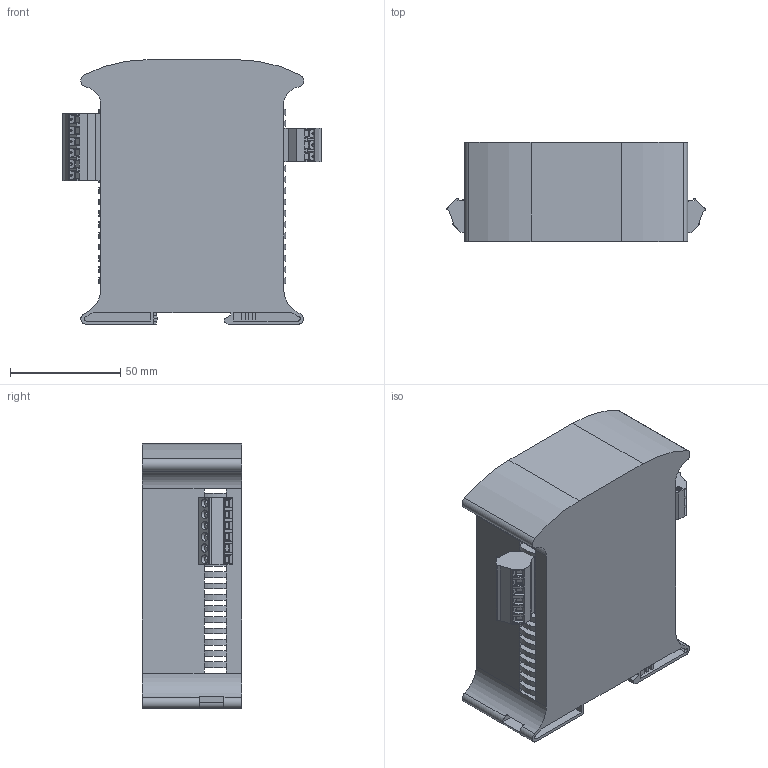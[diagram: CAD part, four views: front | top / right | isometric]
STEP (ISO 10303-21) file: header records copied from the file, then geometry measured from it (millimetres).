
FILE_DESCRIPTION(/* description */ (''),/* implementation_level */ '2;1');
FILE_NAME(/* name */ 'CAL23DT-HV_.step',/* time_stamp */ '2024-05-28T10:18:05+02:00',/* author */ (''),/* organization */ (''),/* preprocessor_version */ 'ST-DEVELOPER v20',/* originating_system */ 'Autodesk Translation Framework v13.14.0.145',/* authorisation */ '');
FILE_SCHEMA (('AUTOMOTIVE_DESIGN { 1 0 10303 214 3 1 1 }'));
Length unit declared in the file: millimetre
Products named in the file (6): CAL23DT-HV; CAL23D Seguro v5; 1826322 v1 (1); 1826322; 1826296; 1826296_1
Assembly tree (5 placements, depth 3):
  CAL23DT-HV
    CAL23D Seguro v5
    1826322 v1 (1)
      1826322
    1826296
      1826296_1
Bounding box: 117.21 x 45 x 120 mm (x, y, z)
Volume: 419611.9 mm3; surface area: 86594.3 mm2
Topology: 4 solids, 4 shells, 799 faces, 2145 edges, 1379 vertices
Faces by surface type: plane 581, cylinder 214, sphere 4
Full cylindrical faces by diameter (mm): 0.457 x2, 1.4 x9, 2.8 x7, 3.783 x9, 4 x9
Entity records: 25618 total; most frequent: CARTESIAN_POINT 4334, DIRECTION 4311, ORIENTED_EDGE 4290, EDGE_CURVE 2145, LINE 1599, VECTOR 1599, VERTEX_POINT 1379, AXIS2_PLACEMENT_3D 1356
